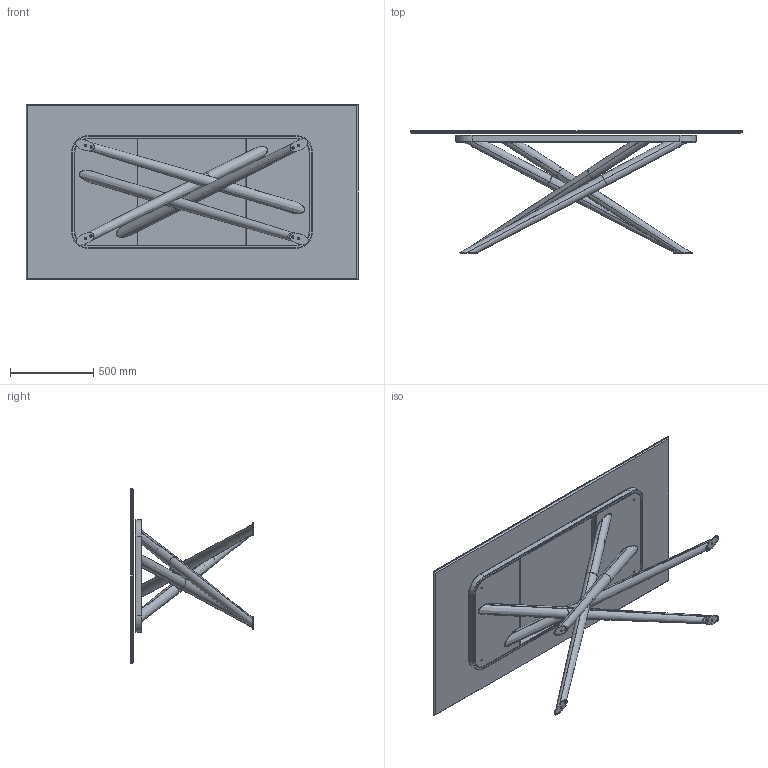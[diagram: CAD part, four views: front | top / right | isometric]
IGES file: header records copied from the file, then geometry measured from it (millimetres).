
Start section: SolidWorks IGES file using analytic representation for surfaces
Global section: file name: Y:\eforma\TECNICO\SOLIDWORKS\E-FORMA\1-TAVOLI\BALY\02 parts\BA21C.IGS; native system: SolidWorks 2022; preprocessor: SolidWorks 2022; author: eforma.tech; date: 240808.082148; units: millimetre
Bounding box: 2000 x 735 x 1060 mm (x, y, z)
Volume: 39525773.9 mm3; surface area: 12777673.2 mm2
Topology: 28 solids, 28 shells, 626 faces, 1296 edges, 720 vertices
Faces by surface type: revolution 308, plane 300, bspline 18
